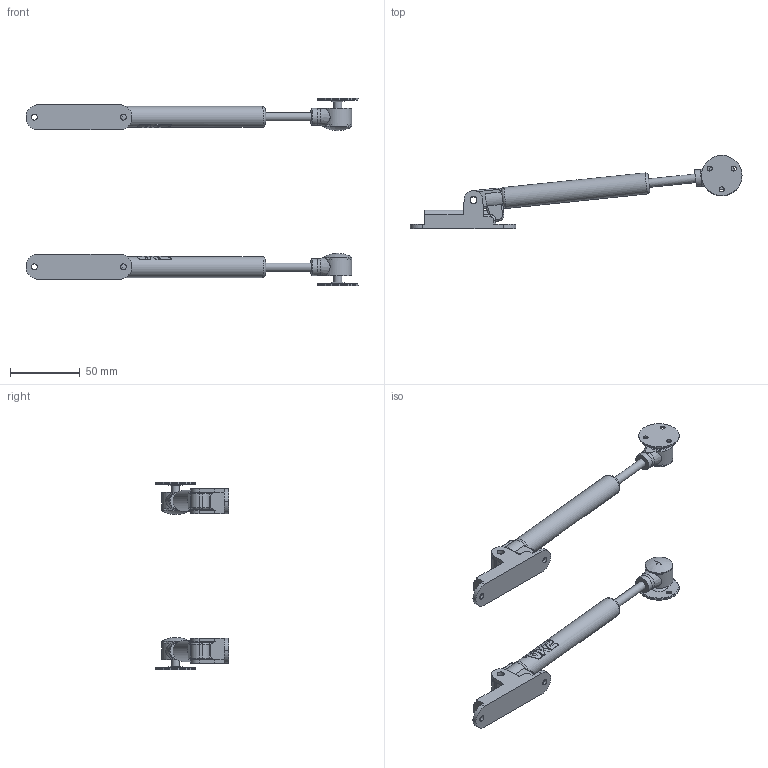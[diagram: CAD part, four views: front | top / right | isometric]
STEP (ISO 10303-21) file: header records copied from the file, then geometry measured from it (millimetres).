
FILE_DESCRIPTION(/* description */ ('Akc'),/* implementation_level */ '2;1');
FILE_NAME(/* name */ 'C:\Users\dmitruk\Documents\WORK\Подъемники\Подъемники\Подъемник газовый с амортизатором AKS PLUS слож.stp',/* time_stamp */ '2022-08-04T10:28:35+03:00',/* author */ ('dmitruk'),/* organization */ (''),/* preprocessor_version */ 'ST-DEVELOPER v16.5',/* originating_system */ 'Autodesk Inventor 2017',/* authorisation */ '');
FILE_SCHEMA (('AUTOMOTIVE_DESIGN { 1 0 10303 214 3 1 1 }'));
Length unit declared in the file: millimetre
Products named in the file (15): Подъемник \X2\043304300437043E0432
044B0439\X0\ с \X2\0430043C043E044004420438043704300442043E
0440043E043C\X0\ AKS PLUS слож; Шток фикс; Крепление \X2\043A043E
0440043F04430441\X0\; Крепление \X2\043F043E
0434044A0435043C043D0438043A\X0\ фикс; Крышка; Шток; Крепление с 
довод; Крепление с 
довод фасад; Шток фикс1; Крепление \X2\043A043E
0440043F04430441\X0\1; Крепление \X2\043F043E
0434044A0435043C043D0438043A\X0\ фикс1; Крышка1; Шток1; Крепление с 
довод1; Крепление с 
довод фасад1
Assembly tree (14 placements, depth 2):
  Подъемник \X2\043304300437043E0432
044B0439\X0\ с \X2\0430043C043E044004420438043704300442043E
0440043E043C\X0\ AKS PLUS слож
    Шток фикс
    Крепление \X2\043A043E
0440043F04430441\X0\
    Крепление \X2\043F043E
0434044A0435043C043D0438043A\X0\ фикс
    Крышка
    Шток
    Крепление с 
довод
    Крепление с 
довод фасад
    Шток фикс1
    Крепление \X2\043A043E
0440043F04430441\X0\1
    Крепление \X2\043F043E
0434044A0435043C043D0438043A\X0\ фикс1
    Крышка1
    Шток1
    Крепление с 
довод1
    Крепление с 
довод фасад1
Bounding box: 238.5 x 52.5 x 134.8 mm (x, y, z)
Volume: 90829.7 mm3; surface area: 44627.8 mm2
Topology: 14 solids, 14 shells, 476 faces, 1276 edges, 832 vertices
Faces by surface type: plane 240, cylinder 172, bspline 28, torus 26, cone 10
Full cylindrical faces by diameter (mm): 3.6 x6, 4.2 x4, 5 x6, 5.8 x2, 6 x2, 8.825 x2, 9.043 x2, 12 x2, 15 x2, 16 x2, 20 x2, 29 x2
Entity records: 17514 total; most frequent: CARTESIAN_POINT 5275, DIRECTION 2486, ORIENTED_EDGE 2416, EDGE_CURVE 1208, AXIS2_PLACEMENT_3D 925, VERTEX_POINT 814, LINE 636, VECTOR 636
